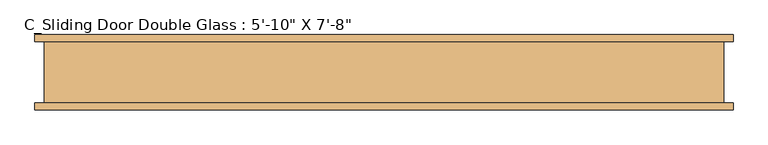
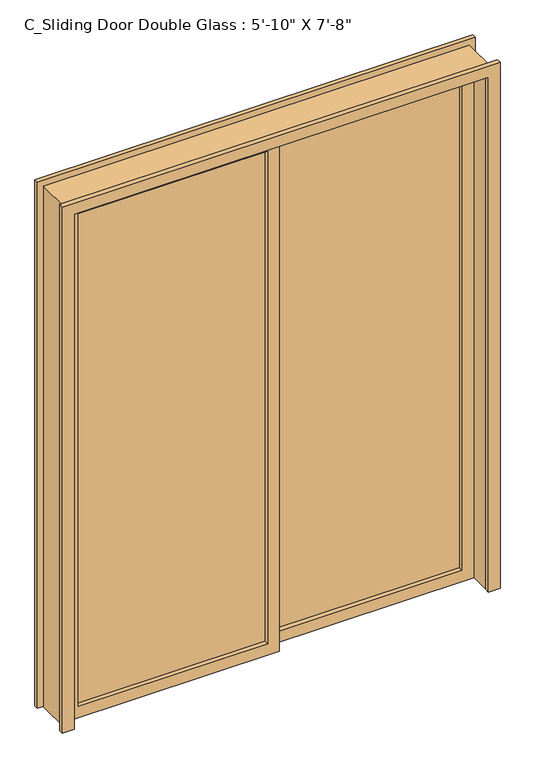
"""IFC4 building model written with IfcOpenShell, lengths in millimetres: door geometry."""

from ifc_helpers import new_model, si_unit, frame, origin, place, context, project, spatial, polyline, outline, extrude, source, transform, mapped, element, save


def door_9b4f77d6(model_context):
    return source(origin(), model_context, "Body", "SweptSolid", [
        extrude(outline(polyline([(2336.8, 25.4), (2336.8, -889.0), (0.0, -889.0), (0.0, 25.4), (2336.8, 25.4)]), holes=[polyline([(2286.0, -838.2), (2286.0, -25.4), (50.8, -25.4), (50.8, -838.2), (2286.0, -838.2)])]), frame((0.0, -44.45, 0.0), z_axis=(0.0, 1.0, 0.0), x_axis=(0.0, 0.0, 1.0)), (0.0, 0.0, 1.0), 50.8),
        extrude(outline(polyline([(2336.8, 889.0), (2336.8, -25.4), (0.0, -25.4), (0.0, 889.0), (2336.8, 889.0)]), holes=[polyline([(2286.0, 25.4), (2286.0, 838.2), (50.8, 838.2), (50.8, 25.4), (2286.0, 25.4)])]), frame((0.0, 6.35, 0.0), z_axis=(0.0, 1.0, 0.0), x_axis=(0.0, 0.0, 1.0)), (0.0, 0.0, 1.0), 50.8),
        extrude(outline(polyline([(-838.2, -25.4), (-838.2, -12.7), (-25.4, -12.7), (-25.4, -25.4), (-838.2, -25.4)])), frame((0.0, 0.0, 50.8), z_axis=(0.0, 0.0, 1.0), x_axis=(1.0, 0.0, 0.0)), (0.0, 0.0, 1.0), 2235.2),
        extrude(outline(polyline([(25.4, 25.4), (25.4, 38.1), (838.2, 38.1), (838.2, 25.4), (25.4, 25.4)])), frame((0.0, 0.0, 50.8), z_axis=(0.0, 0.0, 1.0), x_axis=(1.0, 0.0, 0.0)), (0.0, 0.0, 1.0), 2235.2),
        extrude(outline(polyline([(2336.8, -889.0), (2336.8, 889.0), (0.0, 889.0), (0.0, 939.8), (2387.6, 939.8), (2387.6, -939.8), (0.0, -939.8), (0.0, -889.0), (2336.8, -889.0)])), frame((0.0, 82.55, 0.0), z_axis=(0.0, 1.0, 0.0), x_axis=(0.0, 0.0, 1.0)), (0.0, 0.0, 1.0), 19.05),
        extrude(outline(polyline([(2336.8, -889.0), (2336.8, 889.0), (0.0, 889.0), (0.0, 939.8), (2387.6, 939.8), (2387.6, -939.8), (0.0, -939.8), (0.0, -889.0), (2336.8, -889.0)])), frame((0.0, -101.6, 0.0), z_axis=(0.0, 1.0, 0.0), x_axis=(0.0, 0.0, 1.0)), (0.0, 0.0, 1.0), 19.05),
        extrude(outline(polyline([(0.0, -889.0), (2336.8, -889.0), (2336.8, 889.0), (0.0, 889.0), (0.0, 914.4), (2362.2, 914.4), (2362.2, -914.4), (0.0, -914.4), (0.0, -889.0)])), frame((0.0, -82.55, 0.0), z_axis=(0.0, 1.0, 0.0), x_axis=(0.0, 0.0, 1.0)), (0.0, 0.0, 1.0), 165.1),
    ])


if __name__ == "__main__":
    model = new_model("IFC4")
    model_context = context("Model", 3, world=origin())
    ifc_project = project(units=[si_unit("LENGTHUNIT", "METRE", prefix="MILLI")], contexts=[model_context])
    site = spatial("IfcSite", under=ifc_project)
    building = spatial("IfcBuilding", under=site)
    placement = place(None, origin())
    door_shape = door_9b4f77d6(model_context)
    element("IfcDoor", 1, ObjectType="C_Sliding Door Double Glass : 5'-10\" X 7'-8\"", at=placement, inside=building, context=model_context, shape_type="MappedRepresentation", body=[
        mapped(door_shape, transform((0.0, 0.0, 0.0), x_axis=(1.0, 0.0, 0.0), y_axis=(0.0, 1.0, 0.0), z_axis=(0.0, 0.0, 1.0))),
    ])
    save(model, "model.ifc")
